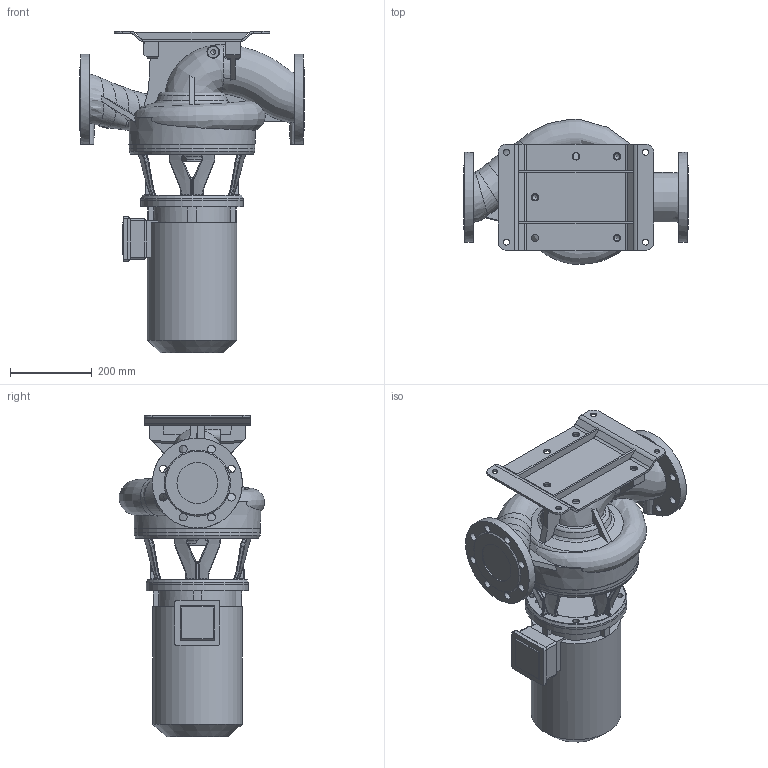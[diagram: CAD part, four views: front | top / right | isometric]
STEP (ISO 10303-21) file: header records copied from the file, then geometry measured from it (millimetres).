
FILE_DESCRIPTION (( 'STEP AP203' ), '1' );
FILE_NAME ('KI100-220_4_4kW.STEP', '2024-07-30T07:37:45', ( '' ), ( '' ), 'SwSTEP 2.0', 'SolidWorks 2023', '' );
FILE_SCHEMA (( 'CONFIG_CONTROL_DESIGN' ));
Length unit declared in the file: millimetre
Products named in the file (11): 220528; 440117_480130_solid; 230179; 230572; 230181; 230573; 230566; 220527; KI100-220_4_4kW; 230565; 230180
Assembly tree (11 placements, depth 3):
  KI100-220_4_4kW
    230566
      230565
    230573
      230572
    220528
      220527
    230181
      230179
      230180  x2
    440117_480130_solid
Bounding box: 550 x 354.71 x 786.35 mm (x, y, z)
Volume: 33854880 mm3; surface area: 1723722.9 mm2
Topology: 7 solids, 7 shells, 869 faces, 2266 edges, 1373 vertices
Faces by surface type: bspline 309, plane 234, cylinder 199, cone 61, torus 58, sphere 8
Full cylindrical faces by diameter (mm): 6 x2, 6.8 x8, 10 x4, 10.2 x8, 11.445 x1, 11.8 x3, 14 x19, 14.5 x4, 15 x8, 18 x5, 19 x16, 100 x2, 180 x1, 219 x1, 220 x2, 225 x1, 243 x1, 246 x1, 250 x2, 255 x2, 308 x2
Entity records: 63706 total; most frequent: CARTESIAN_POINT 44744, ORIENTED_EDGE 4022, DIRECTION 3087, EDGE_CURVE 2011, AXIS2_PLACEMENT_3D 1311, VERTEX_POINT 1285, EDGE_LOOP 1118, FACE_OUTER_BOUND 960
